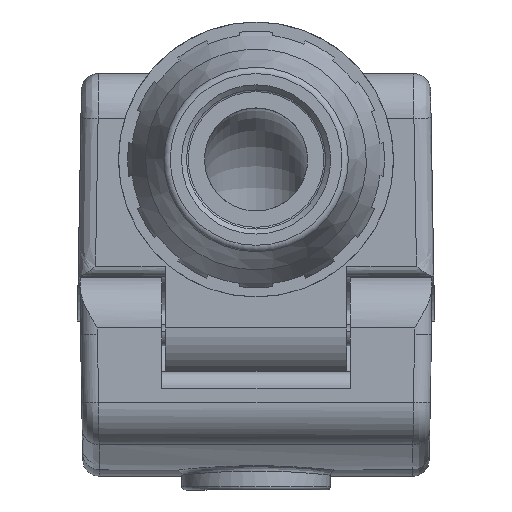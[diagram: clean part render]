
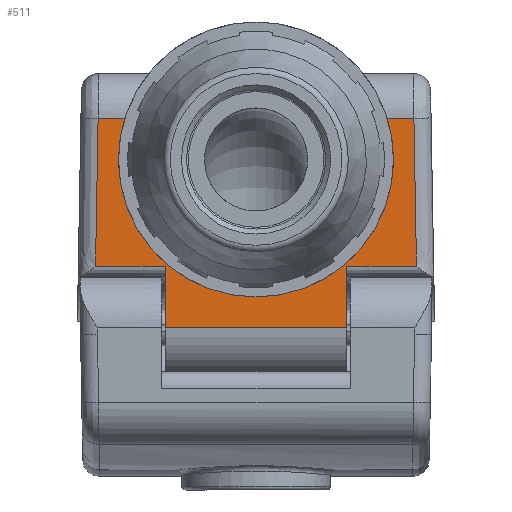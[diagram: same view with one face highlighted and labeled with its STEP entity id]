
A CAD part, front view. The second image highlights one B-rep face of the part: STEP entity #511.
In plain terms, the highlighted planar face has unit normal (0, -1, 0).
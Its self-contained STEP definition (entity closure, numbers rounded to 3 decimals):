
#511 = ADVANCED_FACE( '', ( #1363 ), #1364, .F. );
#1363 = FACE_OUTER_BOUND( '', #2747, .T. );
#1364 = PLANE( '', #2748 );
#2747 = EDGE_LOOP( '', ( #14409, #14410, #14411, #14412, #14413, #14414, #14415, #14416, #14417, #14418 ) );
#2748 = AXIS2_PLACEMENT_3D( '', #14419, #14420, #14421 );
#14409 = ORIENTED_EDGE( '', *, *, #17606, .T. );
#14410 = ORIENTED_EDGE( '', *, *, #17607, .T. );
#14411 = ORIENTED_EDGE( '', *, *, #17608, .T. );
#14412 = ORIENTED_EDGE( '', *, *, #17609, .F. );
#14413 = ORIENTED_EDGE( '', *, *, #17610, .F. );
#14414 = ORIENTED_EDGE( '', *, *, #17611, .F. );
#14415 = ORIENTED_EDGE( '', *, *, #17612, .T. );
#14416 = ORIENTED_EDGE( '', *, *, #17613, .T. );
#14417 = ORIENTED_EDGE( '', *, *, #17614, .F. );
#14418 = ORIENTED_EDGE( '', *, *, #17615, .F. );
#14419 = CARTESIAN_POINT( '', ( -34.395, -42.798, 11.196 ) );
#14420 = DIRECTION( '', ( 0., 1., 0. ) );
#14421 = DIRECTION( '', ( 0., 0., 1. ) );
#17606 = EDGE_CURVE( '', #18945, #18946, #18947, .F. );
#17607 = EDGE_CURVE( '', #18946, #18948, #18949, .T. );
#17608 = EDGE_CURVE( '', #18948, #18950, #18951, .T. );
#17609 = EDGE_CURVE( '', #18952, #18950, #18953, .T. );
#17610 = EDGE_CURVE( '', #18954, #18952, #18955, .T. );
#17611 = EDGE_CURVE( '', #18956, #18954, #18957, .T. );
#17612 = EDGE_CURVE( '', #18956, #18958, #18959, .T. );
#17613 = EDGE_CURVE( '', #18958, #18960, #18961, .T. );
#17614 = EDGE_CURVE( '', #18962, #18960, #18963, .T. );
#17615 = EDGE_CURVE( '', #18945, #18962, #18964, .T. );
#18945 = VERTEX_POINT( '', #21103 );
#18946 = VERTEX_POINT( '', #21104 );
#18947 = CIRCLE( '', #21105, 20.36 );
#18948 = VERTEX_POINT( '', #21106 );
#18949 = LINE( '', #21107, #21108 );
#18950 = VERTEX_POINT( '', #21109 );
#18951 = LINE( '', #21110, #21111 );
#18952 = VERTEX_POINT( '', #21112 );
#18953 = LINE( '', #21113, #21114 );
#18954 = VERTEX_POINT( '', #21115 );
#18955 = LINE( '', #21116, #21117 );
#18956 = VERTEX_POINT( '', #21118 );
#18957 = LINE( '', #21119, #21120 );
#18958 = VERTEX_POINT( '', #21121 );
#18959 = LINE( '', #21122, #21123 );
#18960 = VERTEX_POINT( '', #21124 );
#18961 = LINE( '', #21125, #21126 );
#18962 = VERTEX_POINT( '', #21127 );
#18963 = LINE( '', #21128, #21129 );
#18964 = LINE( '', #21130, #21131 );
#21103 = CARTESIAN_POINT( '', ( 19.413, -42.798, 42.248 ) );
#21104 = CARTESIAN_POINT( '', ( -19.431, -42.798, 42.248 ) );
#21105 = AXIS2_PLACEMENT_3D( '', #29636, #29637, #29638 );
#21106 = CARTESIAN_POINT( '', ( -23.39, -42.798, 42.248 ) );
#21107 = CARTESIAN_POINT( '', ( -0.009, -42.798, 42.248 ) );
#21108 = VECTOR( '', #29639, 1000. );
#21109 = CARTESIAN_POINT( '', ( -23.772, -42.798, 20.361 ) );
#21110 = CARTESIAN_POINT( '', ( -23.39, -42.798, 42.248 ) );
#21111 = VECTOR( '', #29640, 1000. );
#21112 = CARTESIAN_POINT( '', ( -13.446, -42.798, 20.361 ) );
#21113 = CARTESIAN_POINT( '', ( -13.446, -42.798, 20.361 ) );
#21114 = VECTOR( '', #29641, 1000. );
#21115 = CARTESIAN_POINT( '', ( -13.446, -42.798, 11.199 ) );
#21116 = CARTESIAN_POINT( '', ( -13.446, -42.798, -41.639 ) );
#21117 = VECTOR( '', #29642, 1000. );
#21118 = CARTESIAN_POINT( '', ( 13.429, -42.798, 11.199 ) );
#21119 = CARTESIAN_POINT( '', ( -0.009, -42.798, 11.199 ) );
#21120 = VECTOR( '', #29643, 1000. );
#21121 = CARTESIAN_POINT( '', ( 13.429, -42.798, 20.361 ) );
#21122 = CARTESIAN_POINT( '', ( 13.429, -42.798, -41.639 ) );
#21123 = VECTOR( '', #29644, 1000. );
#21124 = CARTESIAN_POINT( '', ( 23.754, -42.798, 20.361 ) );
#21125 = CARTESIAN_POINT( '', ( 13.429, -42.798, 20.361 ) );
#21126 = VECTOR( '', #29645, 1000. );
#21127 = CARTESIAN_POINT( '', ( 23.372, -42.798, 42.248 ) );
#21128 = CARTESIAN_POINT( '', ( 23.372, -42.798, 42.248 ) );
#21129 = VECTOR( '', #29646, 1000. );
#21130 = CARTESIAN_POINT( '', ( -0.009, -42.798, 42.248 ) );
#21131 = VECTOR( '', #29647, 1000. );
#29636 = CARTESIAN_POINT( '', ( -0.009, -42.798, 36.14 ) );
#29637 = DIRECTION( '', ( 0., -1., 0. ) );
#29638 = DIRECTION( '', ( 0., 0., 1. ) );
#29639 = DIRECTION( '', ( -1., 0., 0. ) );
#29640 = DIRECTION( '', ( -0.017, 0., -1. ) );
#29641 = DIRECTION( '', ( -1., 0., 0. ) );
#29642 = DIRECTION( '', ( 0., 0., 1. ) );
#29643 = DIRECTION( '', ( -1., 0., 0. ) );
#29644 = DIRECTION( '', ( 0., 0., 1. ) );
#29645 = DIRECTION( '', ( 1., 0., 0. ) );
#29646 = DIRECTION( '', ( 0.017, 0., -1. ) );
#29647 = DIRECTION( '', ( 1., 0., 0. ) );
